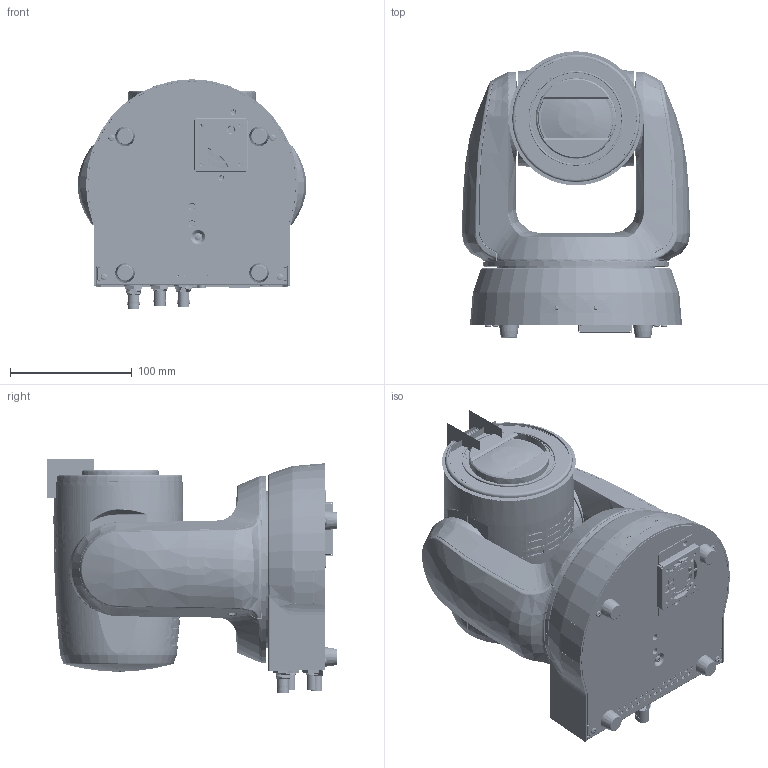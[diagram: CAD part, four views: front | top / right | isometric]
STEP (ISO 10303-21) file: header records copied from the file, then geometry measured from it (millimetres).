
FILE_DESCRIPTION((''),'2;1');
FILE_NAME('ASSY-BODY-SHELL-VC-A71P-HN_ASM','2021-12-24T',('Casper.Liu'),('Wistron - The Product Development Company'),'PRO/ENGINEER BY PARAMETRIC TECHNOLOGY CORPORATION, 2007230','PRO/ENGINEER BY PARAMETRIC TECHNOLOGY CORPORATION, 2007230','');
FILE_SCHEMA(('AUTOMOTIVE_DESIGN { 1 0 10303 214 1 1 1 1 }'));
Length unit declared in the file: millimetre
Products named in the file (79): PLASTIC_HOUSING_BASE_VC-A10; PLASTIC_IR_FRONT_VC200; PLASTIC_GUIDE_LIGHT_VC200; PLASTIC_IR_SIDE_VC200; 48000XX_ASSY_BODY_BASE_VC-A10_ASM; PLASTIC_ARM_FRONT_VC-A71P; PLASTIC_ARM_BACK_VC-A71P; PLASTIC_ARM_SIDE_VC-A71P; PLASTIC-LENS-BOT_VC-A71P; PLASTIC-LENS-TOP_VC-A71P; PLASTIC-LENS-FRONT_VC-A71P; PLASTIC-TALLY-LIGHT_VC-A71P; LENS-F127T-VC-A61H; PLASTIC-MASK-LENS-VC-A71P; PRESS-BASE_VC-A71P-HN-MAR; PCB-IO_VC-A51S; 3200011-50-SENSOR-SG-223; CONN-40PIN-04PH-USL00-30L-C; 3720070-50-EASY-ON-05P-40PIN; SDI-HB256P0N03-R1; 3700026-50_CONHDMI-19SMGS; 37000XX-50_USB-B-3-PATTERN; 3750211-10P-01PH-R; 4540957-PRESS_FIX_USB30_VC-B20U; JACK-ETHERNE-DIP-11711-01X22250; 3860080-SDI-; CONN-40PIN-04PH-USLS00-40; 3540014-50-SWITCH-SK-13D03-L3R1; LAYOUT-IO-TOP-VC-A71P-HN-0609; LAYOUT-IO-BOT-VC-A71P-HN-0609; 1040042-50; FPGA-900PIN-31X31X2D7; 3120086-50G; 1220148-50G; 1220157-50; 1220154-50; 1220159-50; 1280025-50; 2660007-50G; 1220172-50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
Assembly tree (113 placements, depth 3):
  ASSY-BODY-SHELL-VC-A71P-HN_ASM
    48000XX_ASSY_BODY_BASE_VC-A10_ASM
      PLASTIC_HOUSING_BASE_VC-A10
      PLASTIC_IR_FRONT_VC200
      PLASTIC_GUIDE_LIGHT_VC200
      PLASTIC_IR_SIDE_VC200  x2
    PLASTIC_ARM_FRONT_VC-A71P
    PLASTIC_ARM_BACK_VC-A71P
    PLASTIC_ARM_SIDE_VC-A71P  x2
    PLASTIC-LENS-BOT_VC-A71P
    PLASTIC-LENS-TOP_VC-A71P
    PLASTIC-LENS-FRONT_VC-A71P
    PLASTIC-TALLY-LIGHT_VC-A71P
    LENS-F127T-VC-A61H
    PLASTIC-MASK-LENS-VC-A71P
    PRESS-BASE_VC-A71P-HN-MAR
    ASSY-PCBA-IO_VC-A51S_ASM
      PCB-IO_VC-A51S
      3200011-50-SENSOR-SG-223  x2
      CONN-40PIN-04PH-USL00-30L-C
      3720070-50-EASY-ON-05P-40PIN
      SDI-HB256P0N03-R1
      3700026-50_CONHDMI-19SMGS
      37000XX-50_USB-B-3-PATTERN
      3750211-10P-01PH-R  x2
      4540957-PRESS_FIX_USB30_VC-B20U
      JACK-ETHERNE-DIP-11711-01X22250
      3860080-SDI-
      CONN-40PIN-04PH-USLS00-40
      3540014-50-SWITCH-SK-13D03-L3R1
      LAYOUT-IO-TOP-VC-A71P-HN-0609
      LAYOUT-IO-BOT-VC-A71P-HN-0609
      1040042-50  x4
      FPGA-900PIN-31X31X2D7
      3120086-50G  x2
      1220148-50G
      1220157-50
      1220154-50
      1220159-50
      1280025-50
      2660007-50G
      1220172-50
      1220173-50
    ASSY-PCBA-CONTROL_VC-A51S_ASM
      PCB-CONTROL_VC-A51S
      3750158-50-I-TEK-4P-1D25PH_R  x2
      384XXXX-ECH350R-09-MALE-DIP90
      4720043_NUT-M2D5-OD6
      3720070-50-EASY-ON-05P-40PIN
      3860087-50_MICROPHONE
      LED-KPBVA-3010ESGC  x2
      IR-RECEIVER-3200007-51  x3
      3750211-10P-01PH-R  x2
      TU1001WNR-1X15S_1009  x3
      CRIMP_3750077-50
      MINI-DIN-8P  x2
      3860042-50-DC-JACK-EIAJ5320A
      3860080-SDI-  x2
      SWITCH-RCS-102D
      7P-125PITCH-RA
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Bounding box: 187.62 x 238.56 x 191.67 mm (x, y, z)
Volume: 649870.8 mm3; surface area: 952886.5 mm2
Topology: 112 solids, 147 shells, 16595 faces, 46583 edges, 30738 vertices
Faces by surface type: plane 11253, cylinder 3096, bspline 1106, cone 503, torus 320, revolution 167, extrusion 109, sphere 41
Entity records: 549332 total; most frequent: CARTESIAN_POINT 143346, ORIENTED_EDGE 68633, DIRECTION 56706, EDGE_CURVE 34574, PRESENTATION_STYLE_ASSIGNMENT 27854, STYLED_ITEM 27281, CURVE_STYLE 25964, VECTOR 23211
